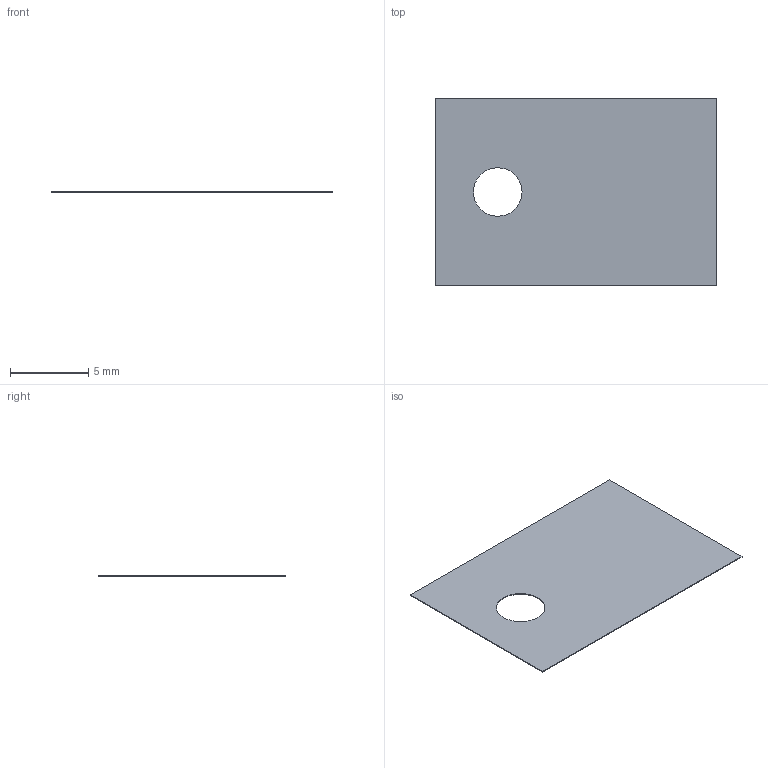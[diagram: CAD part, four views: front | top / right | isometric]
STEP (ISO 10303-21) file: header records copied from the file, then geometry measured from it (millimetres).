
FILE_DESCRIPTION (( 'STEP AP214' ), '1' );
FILE_NAME ('GL 530.STEP', '2004-04-06T13:15:23', ( '' ), ( '' ), 'SwSTEP 2.0', 'SolidWorks 2002349', '' );
FILE_SCHEMA (( 'AUTOMOTIVE_DESIGN' ));
Length unit declared in the file: millimetre
Products named in the file (1): GL 530
Bounding box: 18 x 12 x 0.05 mm (x, y, z)
Volume: 10.4 mm3; surface area: 420.4 mm2
Topology: 1 solids, 1 shells, 8 faces, 18 edges, 12 vertices
Faces by surface type: plane 6, cylinder 2
Entity records: 253 total; most frequent: DIRECTION 40, CARTESIAN_POINT 39, ORIENTED_EDGE 36, EDGE_CURVE 18, LINE 14, VECTOR 14, AXIS2_PLACEMENT_3D 13, VERTEX_POINT 12
